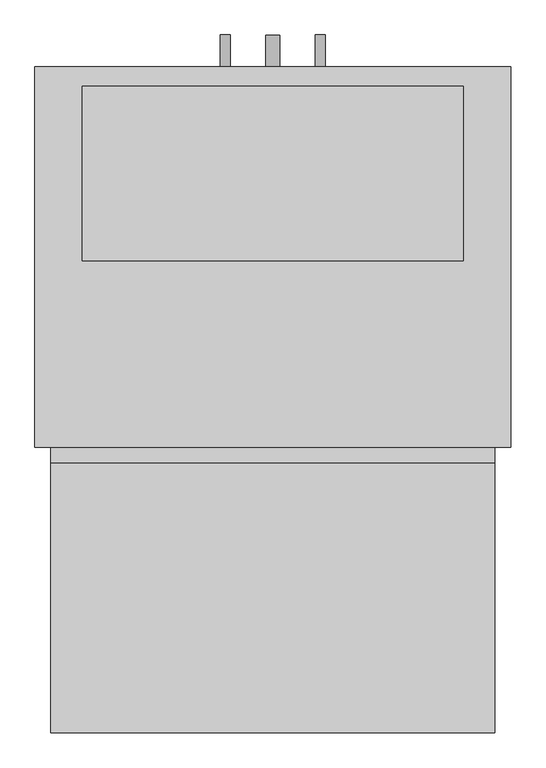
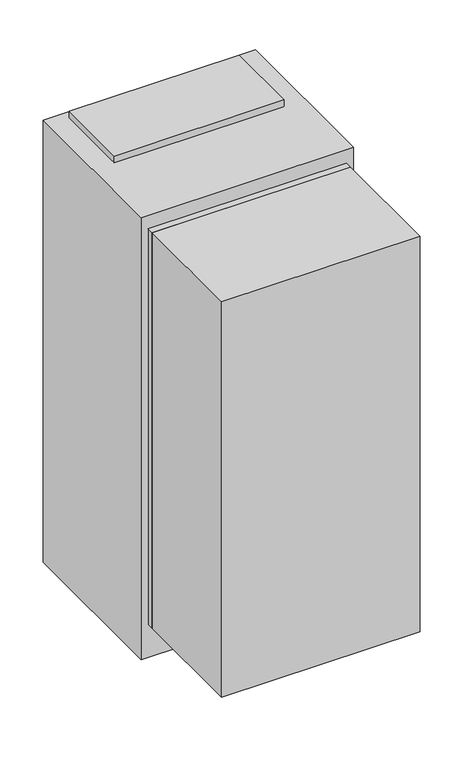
"""IFC4 building model written with IfcOpenShell, lengths in millimetres: proxy geometry, Concealed_Modular_Fan_Coil_Unit_-_42SMA_-_CARRIER_-_2-Pipe_Cool-EHeat_-_NoRisers_2022 : Size 20 - 277v/60Hz/1Ph - 5 Row 12.0kW."""

from ifc_helpers import new_model, si_unit, point, frame, frame_2d, origin, origin_with_axes, place, context, project, spatial, polyline, circle_curve, trimmed, segment, composite_curve, outline, extrude, source, transform, mapped, element, save


def mechanical_equipment_e0f0739c(model_context):
    return source(origin(), model_context, "Body", "SweptSolid", [
        extrude(outline(polyline([(889.0, -390.525), (889.0, -822.325), (177.8, -822.325), (177.8, -390.525), (889.0, -390.525)])), frame((0.0, 0.0, 127.0), z_axis=(0.0, 0.0, 1.0), x_axis=(1.0, 0.0, 0.0)), (0.0, 0.0, 1.0), 1498.6),
        extrude(outline(composite_curve([segment(trimmed(circle_curve(frame_2d((990.6, 609.6)), 7.9375), [point((990.6, 601.6625))], [point((990.6, 617.5375))], False, "CARTESIAN"), True, "CONTINUOUS"), segment(trimmed(circle_curve(frame_2d((990.6, 609.6)), 7.9375), [point((990.6, 617.5375))], [point((990.6, 601.6625))], False, "CARTESIAN"), True, "CONTINUOUS")], self_intersect=False)), frame((0.0, 244.475, 0.0), z_axis=(0.0, 1.0, 0.0), x_axis=(0.0, 0.0, 1.0)), (0.0, 0.0, 1.0), 50.8),
        extrude(outline(composite_curve([segment(trimmed(circle_curve(frame_2d((990.6, 457.2)), 7.9375), [point((990.6, 449.2625))], [point((990.6, 465.1375))], False, "CARTESIAN"), True, "CONTINUOUS"), segment(trimmed(circle_curve(frame_2d((990.6, 457.2)), 7.9375), [point((990.6, 465.1375))], [point((990.6, 449.2625))], False, "CARTESIAN"), True, "CONTINUOUS")], self_intersect=False)), frame((0.0, 244.475, 0.0), z_axis=(0.0, 1.0, 0.0), x_axis=(0.0, 0.0, 1.0)), (0.0, 0.0, 1.0), 50.8),
        extrude(outline(composite_curve([segment(trimmed(circle_curve(frame_2d((76.2, 533.4)), 11.1125), [point((76.2, 522.2875))], [point((76.2, 544.5125))], False, "CARTESIAN"), True, "CONTINUOUS"), segment(trimmed(circle_curve(frame_2d((76.2, 533.4)), 11.1125), [point((76.2, 544.5125))], [point((76.2, 522.2875))], False, "CARTESIAN"), True, "CONTINUOUS")], self_intersect=False)), frame((0.0, 244.475, 0.0), z_axis=(0.0, 1.0, 0.0), x_axis=(0.0, 0.0, 1.0)), (0.0, 0.0, 1.0), 50.8),
        extrude(outline(polyline([(838.2, 212.725), (838.2, -66.675), (228.6, -66.675), (228.6, 212.725), (838.2, 212.725)])), frame((0.0, 0.0, 1676.4), z_axis=(0.0, 0.0, 1.0), x_axis=(1.0, 0.0, 0.0)), (0.0, 0.0, 1.0), 25.4),
        extrude(outline(polyline([(889.0, -390.525), (177.8, -390.525), (177.8, -365.125), (889.0, -365.125), (889.0, -390.525)])), frame((0.0, 0.0, 127.0), z_axis=(0.0, 0.0, 1.0), x_axis=(1.0, 0.0, 0.0)), (0.0, 0.0, 1.0), 1498.6),
        extrude(outline(polyline([(914.4, 244.475), (914.4, -365.125), (152.4, -365.125), (152.4, 244.475), (914.4, 244.475)])), origin_with_axes(), (0.0, 0.0, 1.0), 1676.4),
    ])


if __name__ == "__main__":
    model = new_model("IFC4")
    model_context = context("Model", 3, world=origin())
    ifc_project = project(units=[si_unit("LENGTHUNIT", "METRE", prefix="MILLI")], contexts=[model_context])
    site = spatial("IfcSite", under=ifc_project)
    building = spatial("IfcBuilding", under=site)
    placement = place(None, origin())
    mechanical_equipment_shape = mechanical_equipment_e0f0739c(model_context)
    element("IfcBuildingElementProxy", 1, Name="Concealed_Modular_Fan_Coil_Unit_-_42SMA_-_CARRIER_-_2-Pipe_Cool-EHeat_-_NoRisers_2022 : Size 20 - 277v/60Hz/1Ph - 5 Row 12.0kW", ObjectType="Concealed_Modular_Fan_Coil_Unit_-_42SMA_-_CARRIER_-_2-Pipe_Cool-EHeat_-_NoRisers_2022 : Size 20 - 277v/60Hz/1Ph - 5 Row 12.0kW", at=placement, inside=building, context=model_context, shape_type="MappedRepresentation", body=[
        mapped(mechanical_equipment_shape, transform((0.0, 0.0, 0.0), x_axis=(1.0, 0.0, 0.0), y_axis=(0.0, 1.0, 0.0), z_axis=(0.0, 0.0, 1.0))),
    ])
    save(model, "model.ifc")
